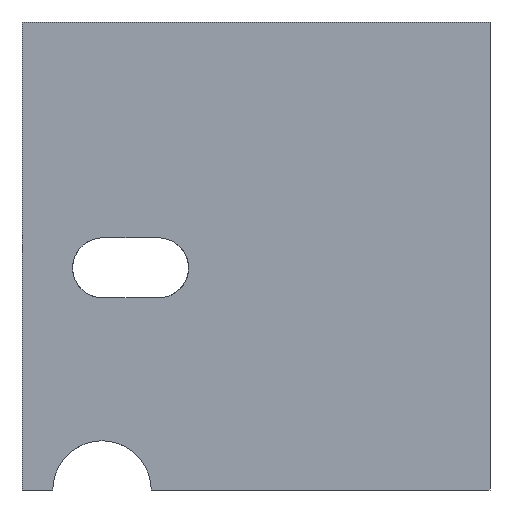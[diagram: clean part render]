
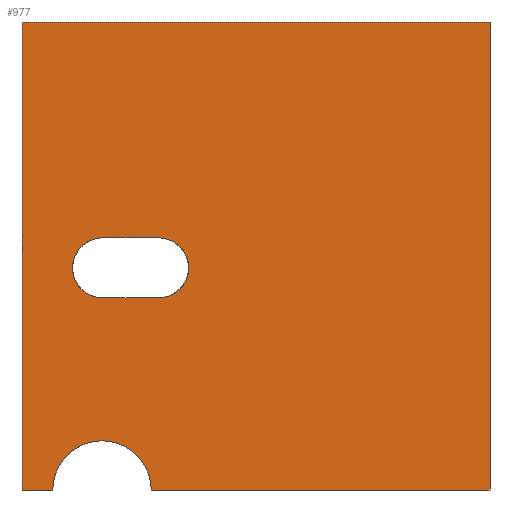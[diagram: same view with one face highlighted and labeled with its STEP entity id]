
A CAD part, left-side view. The second image highlights one B-rep face of the part: STEP entity #977.
In plain terms, the highlighted planar face has unit normal (-1, 0, 0).
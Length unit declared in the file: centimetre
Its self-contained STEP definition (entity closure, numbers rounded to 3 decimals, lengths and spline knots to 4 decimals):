
#43 = CARTESIAN_POINT ( 'NONE',  ( 0., 723.8438, 0. ) ) ;
#44 = EDGE_LOOP ( 'NONE', ( #57, #1253, #719, #658 ) ) ;
#57 = ORIENTED_EDGE ( 'NONE', *, *, #73, .F. ) ;
#62 = AXIS2_PLACEMENT_3D ( 'NONE', #1318, #302, #755 ) ;
#72 = DIRECTION ( 'NONE',  ( 0., -1., 0. ) ) ;
#73 = EDGE_CURVE ( 'NONE', #108, #1048, #758, .T. ) ;
#91 = EDGE_CURVE ( 'NONE', #1365, #148, #1370, .T. ) ;
#103 = DIRECTION ( 'NONE',  ( 0., 0., -1. ) ) ;
#108 = VERTEX_POINT ( 'NONE', #231 ) ;
#141 = VERTEX_POINT ( 'NONE', #470 ) ;
#148 = VERTEX_POINT ( 'NONE', #923 ) ;
#152 = EDGE_CURVE ( 'NONE', #1036, #254, #809, .T. ) ;
#181 = LINE ( 'NONE', #1410, #1387 ) ;
#202 = VECTOR ( 'NONE', #956, 100. ) ;
#206 = DIRECTION ( 'NONE',  ( 0., 0., -1. ) ) ;
#231 = CARTESIAN_POINT ( 'NONE',  ( 0., 708.3875, 538.8932 ) ) ;
#254 = VERTEX_POINT ( 'NONE', #1118 ) ;
#281 = DIRECTION ( 'NONE',  ( -1., 0., 0. ) ) ;
#302 = DIRECTION ( 'NONE',  ( -1., 0., 0. ) ) ;
#326 = PLANE ( 'NONE',  #421 ) ;
#333 = CARTESIAN_POINT ( 'NONE',  ( 0., 829.0096, 0. ) ) ;
#344 = CIRCLE ( 'NONE', #538, 105.1658 ) ;
#347 = DIRECTION ( 'NONE',  ( 0., 0., -1. ) ) ;
#355 = CARTESIAN_POINT ( 'NONE',  ( 0., 0., 1000. ) ) ;
#370 = VECTOR ( 'NONE', #479, 100. ) ;
#402 = DIRECTION ( 'NONE',  ( 0., 0., -1. ) ) ;
#413 = EDGE_LOOP ( 'NONE', ( #881, #547, #710, #899, #1164, #530 ) ) ;
#414 = CARTESIAN_POINT ( 'NONE',  ( 0., 827.6101, 474.6018 ) ) ;
#421 = AXIS2_PLACEMENT_3D ( 'NONE', #886, #654, #206 ) ;
#441 = CARTESIAN_POINT ( 'NONE',  ( 0., 827.6101, 538.8932 ) ) ;
#442 = VECTOR ( 'NONE', #1103, 100. ) ;
#448 = EDGE_CURVE ( 'NONE', #1048, #1036, #1179, .T. ) ;
#456 = DIRECTION ( 'NONE',  ( 0., -1., 0. ) ) ;
#462 = EDGE_CURVE ( 'NONE', #141, #1365, #181, .T. ) ;
#470 = CARTESIAN_POINT ( 'NONE',  ( 0., 1000., 1000. ) ) ;
#479 = DIRECTION ( 'NONE',  ( 0., 0., -1. ) ) ;
#519 = LINE ( 'NONE', #1437, #1128 ) ;
#530 = ORIENTED_EDGE ( 'NONE', *, *, #640, .T. ) ;
#534 = EDGE_CURVE ( 'NONE', #725, #148, #519, .T. ) ;
#538 = AXIS2_PLACEMENT_3D ( 'NONE', #333, #1453, #103 ) ;
#547 = ORIENTED_EDGE ( 'NONE', *, *, #1046, .T. ) ;
#560 = CIRCLE ( 'NONE', #62, 64.2914 ) ;
#614 = CARTESIAN_POINT ( 'NONE',  ( 0., 1000., 1000. ) ) ;
#620 = EDGE_CURVE ( 'NONE', #254, #108, #560, .T. ) ;
#640 = EDGE_CURVE ( 'NONE', #141, #1390, #732, .T. ) ;
#654 = DIRECTION ( 'NONE',  ( 1., 0., 0. ) ) ;
#658 = ORIENTED_EDGE ( 'NONE', *, *, #448, .F. ) ;
#662 = FACE_OUTER_BOUND ( 'NONE', #413, .T. ) ;
#710 = ORIENTED_EDGE ( 'NONE', *, *, #534, .T. ) ;
#719 = ORIENTED_EDGE ( 'NONE', *, *, #152, .F. ) ;
#725 = VERTEX_POINT ( 'NONE', #43 ) ;
#732 = LINE ( 'NONE', #614, #370 ) ;
#755 = DIRECTION ( 'NONE',  ( 0., 0., -1. ) ) ;
#758 = LINE ( 'NONE', #1210, #442 ) ;
#771 = VECTOR ( 'NONE', #347, 100. ) ;
#809 = LINE ( 'NONE', #915, #1334 ) ;
#812 = FACE_BOUND ( 'NONE', #44, .T. ) ;
#876 = DIRECTION ( 'NONE',  ( 0., -1., 0. ) ) ;
#881 = ORIENTED_EDGE ( 'NONE', *, *, #1305, .T. ) ;
#886 = CARTESIAN_POINT ( 'NONE',  ( 0., 1000., 1000. ) ) ;
#899 = ORIENTED_EDGE ( 'NONE', *, *, #91, .F. ) ;
#915 = CARTESIAN_POINT ( 'NONE',  ( 0., 708.3875, 410.3105 ) ) ;
#923 = CARTESIAN_POINT ( 'NONE',  ( 0., 0., 0. ) ) ;
#942 = VERTEX_POINT ( 'NONE', #1226 ) ;
#956 = DIRECTION ( 'NONE',  ( 0., -1., 0. ) ) ;
#977 = ADVANCED_FACE ( 'NONE', ( #812, #662 ), #326, .F. ) ;
#978 = CARTESIAN_POINT ( 'NONE',  ( 0., 0., 1000. ) ) ;
#1036 = VERTEX_POINT ( 'NONE', #1217 ) ;
#1046 = EDGE_CURVE ( 'NONE', #942, #725, #344, .T. ) ;
#1048 = VERTEX_POINT ( 'NONE', #441 ) ;
#1074 = CARTESIAN_POINT ( 'NONE',  ( 0., 1000., 0. ) ) ;
#1094 = CARTESIAN_POINT ( 'NONE',  ( 0., 1000., 0. ) ) ;
#1103 = DIRECTION ( 'NONE',  ( 0., 1., 0. ) ) ;
#1118 = CARTESIAN_POINT ( 'NONE',  ( 0., 708.3875, 410.3105 ) ) ;
#1128 = VECTOR ( 'NONE', #876, 100. ) ;
#1164 = ORIENTED_EDGE ( 'NONE', *, *, #462, .F. ) ;
#1179 = CIRCLE ( 'NONE', #1456, 64.2914 ) ;
#1210 = CARTESIAN_POINT ( 'NONE',  ( 0., 827.6101, 538.8932 ) ) ;
#1217 = CARTESIAN_POINT ( 'NONE',  ( 0., 827.6101, 410.3105 ) ) ;
#1226 = CARTESIAN_POINT ( 'NONE',  ( 0., 934.1754, 0. ) ) ;
#1253 = ORIENTED_EDGE ( 'NONE', *, *, #620, .F. ) ;
#1305 = EDGE_CURVE ( 'NONE', #1390, #942, #1411, .T. ) ;
#1318 = CARTESIAN_POINT ( 'NONE',  ( 0., 708.3875, 474.6018 ) ) ;
#1334 = VECTOR ( 'NONE', #456, 100. ) ;
#1365 = VERTEX_POINT ( 'NONE', #978 ) ;
#1370 = LINE ( 'NONE', #355, #771 ) ;
#1387 = VECTOR ( 'NONE', #72, 100. ) ;
#1390 = VERTEX_POINT ( 'NONE', #1094 ) ;
#1410 = CARTESIAN_POINT ( 'NONE',  ( 0., 1000., 1000. ) ) ;
#1411 = LINE ( 'NONE', #1074, #202 ) ;
#1437 = CARTESIAN_POINT ( 'NONE',  ( 0., 1000., 0. ) ) ;
#1453 = DIRECTION ( 'NONE',  ( 1., 0., 0. ) ) ;
#1456 = AXIS2_PLACEMENT_3D ( 'NONE', #414, #281, #402 ) ;
